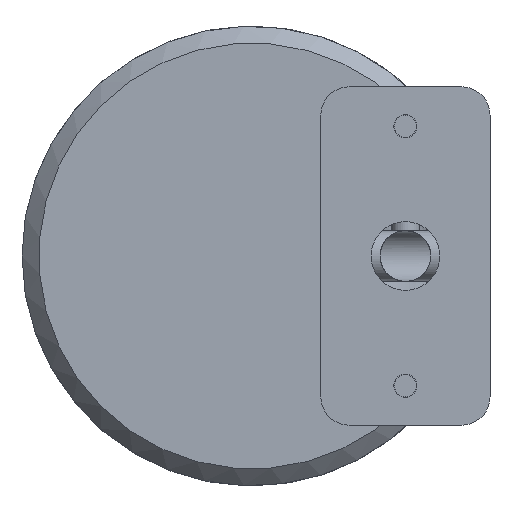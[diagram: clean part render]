
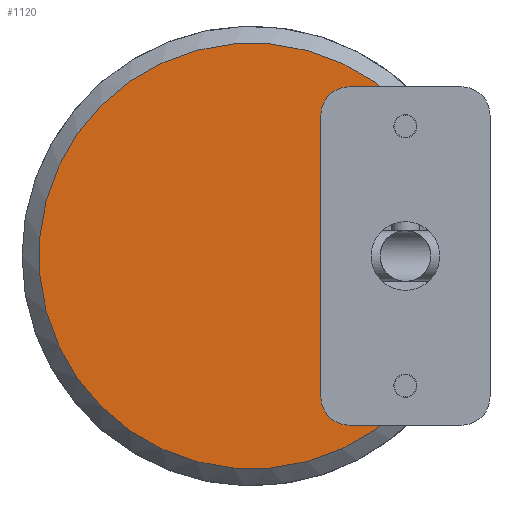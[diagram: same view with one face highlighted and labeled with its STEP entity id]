
A CAD part, front view. The second image highlights one B-rep face of the part: STEP entity #1120.
In plain terms, the highlighted planar face has unit normal (0, -1, 0).
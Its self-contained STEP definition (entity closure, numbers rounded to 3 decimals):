
#1=DIRECTION('',(-1.,0.,0.));
#2=VECTOR('',#1,22.232);
#3=CARTESIAN_POINT('',(36.482,0.,9.7));
#4=LINE('',#3,#2);
#5=DIRECTION('',(0.,0.,-1.));
#6=VECTOR('',#5,19.4);
#7=CARTESIAN_POINT('',(14.25,0.,9.7));
#8=LINE('',#7,#6);
#9=DIRECTION('',(-1.,0.,0.));
#10=VECTOR('',#9,22.232);
#11=CARTESIAN_POINT('',(36.482,0.,-9.7));
#12=LINE('',#11,#10);
#13=CARTESIAN_POINT('',(0.,0.,0.));
#14=DIRECTION('',(0.,-1.,0.));
#15=DIRECTION('',(0.966,0.,0.257));
#16=AXIS2_PLACEMENT_3D('',#13,#14,#15);
#30=CARTESIAN_POINT('',(36.482,0.,-9.7));
#66=CARTESIAN_POINT('',(36.482,0.,9.7));
#1033=CARTESIAN_POINT('',(14.25,0.,-9.7));
#1034=CARTESIAN_POINT('',(14.25,0.,9.7));
#1035=VERTEX_POINT('',#1033);
#1036=VERTEX_POINT('',#1034);
#1037=VERTEX_POINT('',#30);
#1042=VERTEX_POINT('',#66);
#1105=CARTESIAN_POINT('',(0.,0.,0.));
#1106=DIRECTION('',(0.,1.,0.));
#1107=DIRECTION('',(1.,0.,0.));
#1108=AXIS2_PLACEMENT_3D('',#1105,#1106,#1107);
#1109=PLANE('',#1108);
#1111=ORIENTED_EDGE('',*,*,#1110,.F.);
#1113=ORIENTED_EDGE('',*,*,#1112,.T.);
#1115=ORIENTED_EDGE('',*,*,#1114,.T.);
#1117=ORIENTED_EDGE('',*,*,#1116,.F.);
#1118=EDGE_LOOP('',(#1111,#1113,#1115,#1117));
#1119=FACE_OUTER_BOUND('',#1118,.F.);
#1120=ADVANCED_FACE('',(#1119),#1109,.F.);
#17=CIRCLE('',#16,37.75);
#1110=EDGE_CURVE('',#1042,#1037,#17,.T.);
#1112=EDGE_CURVE('',#1042,#1036,#4,.T.);
#1114=EDGE_CURVE('',#1036,#1035,#8,.T.);
#1116=EDGE_CURVE('',#1037,#1035,#12,.T.);
